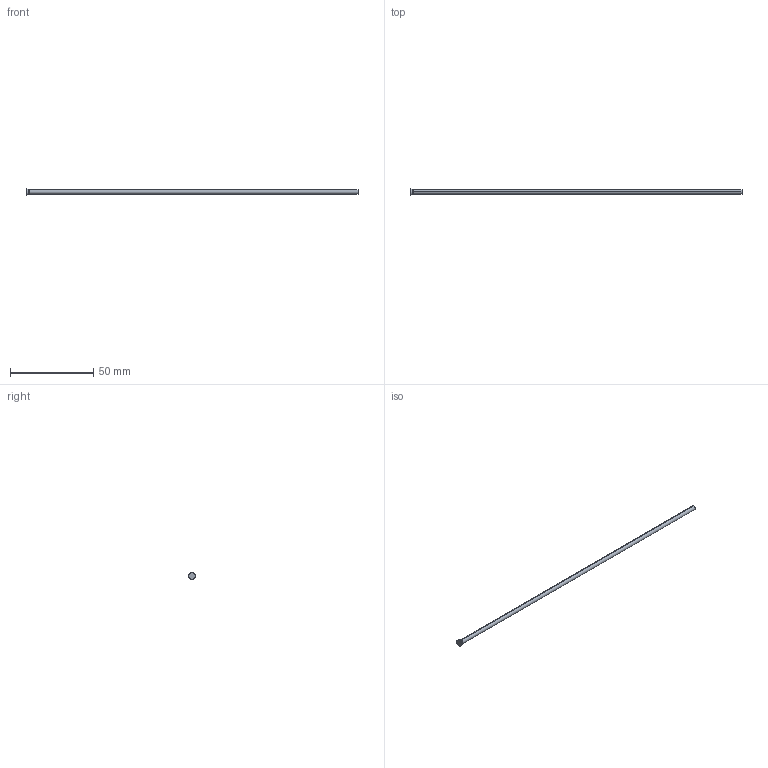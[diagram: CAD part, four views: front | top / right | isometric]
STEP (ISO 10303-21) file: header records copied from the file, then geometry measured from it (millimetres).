
FILE_DESCRIPTION (( 'STEP AP214' ), '1' );
FILE_NAME ('D-2,6x200.STEP', '2020-06-08T10:08:42', ( 'August' ), ( '' ), 'SwSTEP 2.0', 'SolidWorks 2018', '' );
FILE_SCHEMA (( 'AUTOMOTIVE_DESIGN' ));
Length unit declared in the file: millimetre
Products named in the file (1): D-2,6x200
Bounding box: 200 x 4 x 4 mm (x, y, z)
Volume: 1069.6 mm3; surface area: 1658.2 mm2
Topology: 1 solids, 1 shells, 10 faces, 18 edges, 10 vertices
Faces by surface type: cylinder 4, torus 2, cone 2, plane 2
Entity records: 280 total; most frequent: DIRECTION 52, CARTESIAN_POINT 39, ORIENTED_EDGE 36, AXIS2_PLACEMENT_3D 23, EDGE_CURVE 18, CIRCLE 12, ADVANCED_FACE 10, VERTEX_POINT 10
